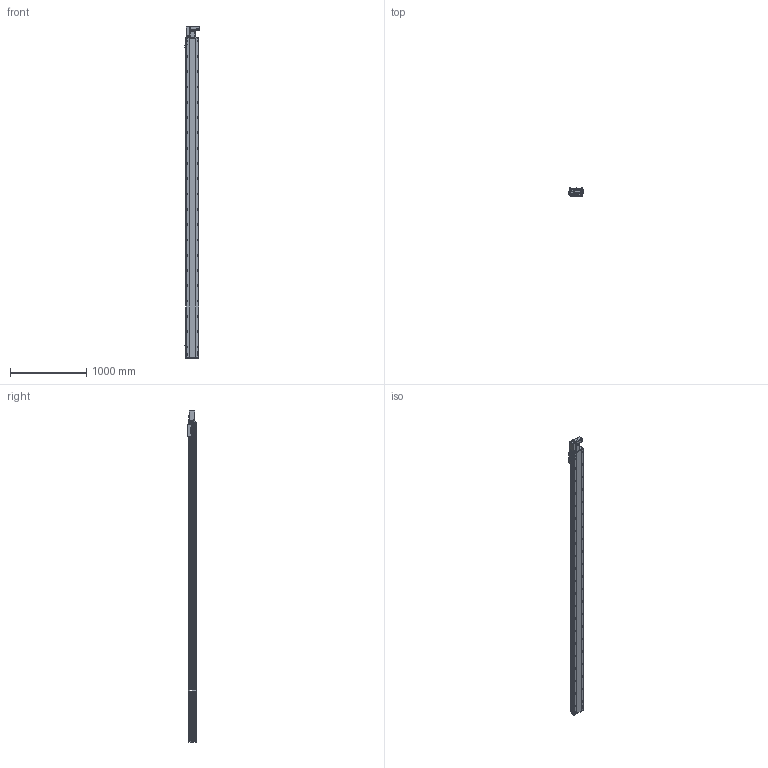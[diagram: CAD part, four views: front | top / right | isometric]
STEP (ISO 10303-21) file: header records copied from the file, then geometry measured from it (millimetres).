
FILE_DESCRIPTION (( 'STEP AP214' ), '1' );
FILE_NAME ('RTB17S-XX-3900-L-M40-C4.STEP', '2025-12-11T06:11:41', ( '' ), ( '' ), 'SwSTEP 2.0', 'SolidWorks 2018', '' );
FILE_SCHEMA (( 'AUTOMOTIVE_DESIGN' ));
Length unit declared in the file: millimetre
Products named in the file (14): RTB14-L-018P^RTB17S-L-々湍釱蚾饜-400W_RTB17S-XX-XX-L-M40-C4; RTB17S-L-007奻裔^RTB17S-XX-XX-L-M40-C4; OMRON EE-SX672 传感器^RTB17S-XX-XX-L-M40-C4; RTB14-L-017P^RTB17S-L-々湍釱蚾饜-400W_RTB17S-XX-XX-L-M40-C4; RTB14-L-008-M20--萇儂啣^RTB17S-L-々湍釱蚾饜-400W_RTB17S-XX-XX-L-M40-C4; RMP17S-L-014-T20--々湍釱^RTB17S-L-々湍釱蚾饜-400W_RTB17S-XX-XX-L-M40-C4; RTB17S-L-々湍釱蚾饜-400W^RTB17S-XX-XX-L-M40-C4; RTB17-R-011菁釱^RTB17S-XX-XX-L-M40-C4; 400W侜督萇儂^RTB17S-XX-XX-L-M40-C4; RTH13-BL-012覜茼え俋离^RTB17S-XX-XX-L-M40-C4; RTB17S-L-001耜醱啣^RTB17S-XX-XX-L-M40-C4; RTB14-L-005P--轴承塑胶压盖^RTB17S-L-皮带座装配-400W_RTB17S-XX-XX-L-M40-C4; RTB17S-XX-3900-L-M40-C4; RTB17S-L-004佪裝蹟譫蟀諉釱^RTB17S-XX-XX-L-M40-C4
Assembly tree (16 placements, depth 3):
  RTB17S-XX-3900-L-M40-C4
    RTB17-R-011菁釱^RTB17S-XX-XX-L-M40-C4
    RTB17S-L-007奻裔^RTB17S-XX-XX-L-M40-C4
    OMRON EE-SX672 传感器^RTB17S-XX-XX-L-M40-C4  x3
    RTB17S-L-001耜醱啣^RTB17S-XX-XX-L-M40-C4
    400W侜督萇儂^RTB17S-XX-XX-L-M40-C4
    RTB17S-L-004佪裝蹟譫蟀諉釱^RTB17S-XX-XX-L-M40-C4
    RTH13-BL-012覜茼え俋离^RTB17S-XX-XX-L-M40-C4
    RTB17S-L-々湍釱蚾饜-400W^RTB17S-XX-XX-L-M40-C4
      RMP17S-L-014-T20--々湍釱^RTB17S-L-々湍釱蚾饜-400W_RTB17S-XX-XX-L-M40-C4
      RTB14-L-005P--轴承塑胶压盖^RTB17S-L-皮带座装配-400W_RTB17S-XX-XX-L-M40-C4
      RTB14-L-008-M20--萇儂啣^RTB17S-L-々湍釱蚾饜-400W_RTB17S-XX-XX-L-M40-C4
      RTB14-L-017P^RTB17S-L-々湍釱蚾饜-400W_RTB17S-XX-XX-L-M40-C4  x2
      RTB14-L-018P^RTB17S-L-々湍釱蚾饜-400W_RTB17S-XX-XX-L-M40-C4
Bounding box: 186 x 108 x 4341 mm (x, y, z)
Volume: 36020967.6 mm3; surface area: 4077909.2 mm2
Topology: 15 solids, 15 shells, 2445 faces, 6897 edges, 4509 vertices
Faces by surface type: plane 1098, cylinder 899, bspline 301, cone 139, torus 8
Entity records: 74153 total; most frequent: CARTESIAN_POINT 21302, ORIENTED_EDGE 10638, DIRECTION 9746, EDGE_CURVE 5319, VERTEX_POINT 3497, AXIS2_PLACEMENT_3D 3427, VECTOR 2892, LINE 2892
